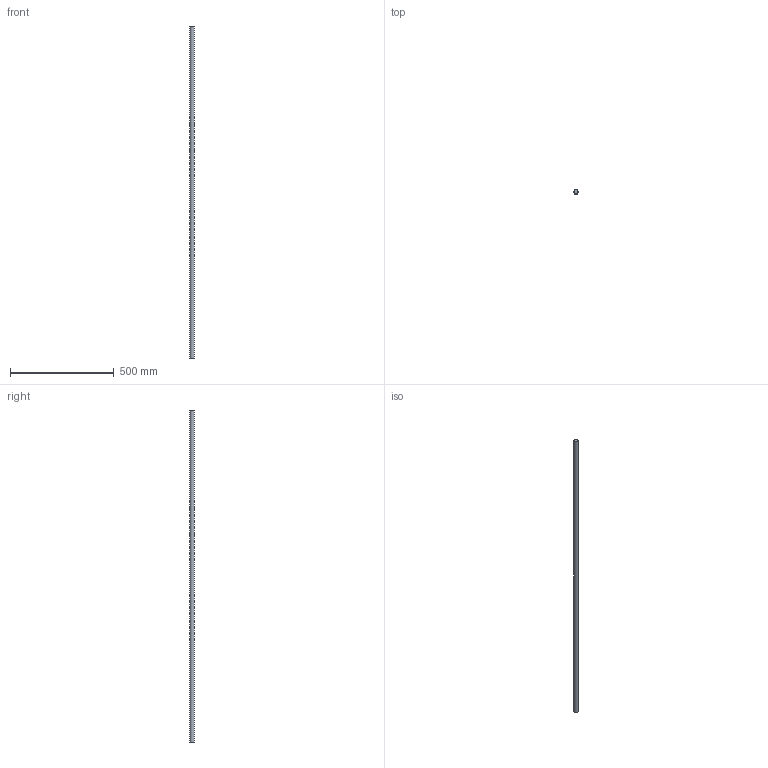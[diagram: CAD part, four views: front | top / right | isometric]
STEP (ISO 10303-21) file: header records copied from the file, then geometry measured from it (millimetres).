
FILE_DESCRIPTION(/* description */ (''),/* implementation_level */ '2;1');
FILE_NAME(/* name */ 'C:\Users\David\Desktop\stepFiles\Profilfuehrung\WF20x1600.stp',/* time_stamp */ '2018-06-24T15:49:05+02:00',/* author */ ('David'),/* organization */ (''),/* preprocessor_version */ 'ST-DEVELOPER v17',/* originating_system */ 'Autodesk Inventor 2019',/* authorisation */ '');
FILE_SCHEMA (('AUTOMOTIVE_DESIGN { 1 0 10303 214 3 1 1 }'));
Length unit declared in the file: millimetre
Products named in the file (1): Wellenfuehrung
Bounding box: 20 x 20 x 1600 mm (x, y, z)
Volume: 502654.8 mm3; surface area: 101159.3 mm2
Topology: 1 solids, 1 shells, 3 faces, 3 edges, 2 vertices
Faces by surface type: plane 2, cylinder 1
Full cylindrical faces by diameter (mm): 20 x1
Entity records: 98 total; most frequent: DIRECTION 13, CARTESIAN_POINT 9, ORIENTED_EDGE 6, AXIS2_PLACEMENT_3D 6, FACE_OUTER_BOUND 3, EDGE_LOOP 3, EDGE_CURVE 3, ADVANCED_FACE 3
